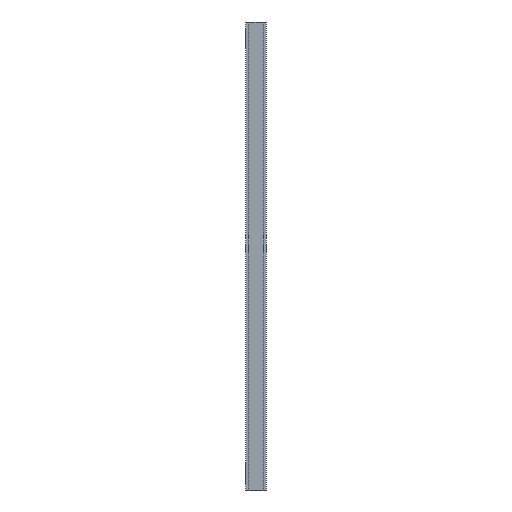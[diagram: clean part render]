
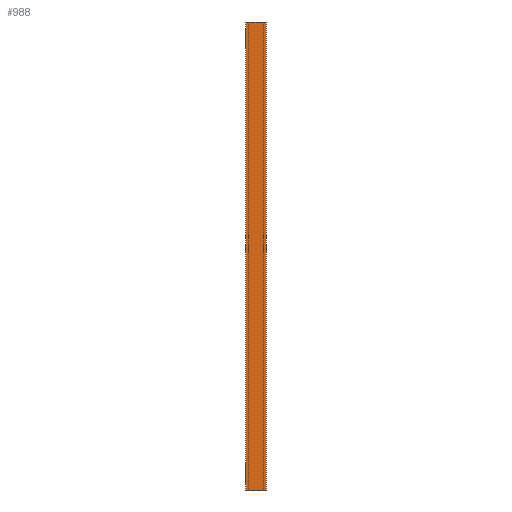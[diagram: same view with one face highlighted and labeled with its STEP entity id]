
A CAD part, left-side view. The second image highlights one B-rep face of the part: STEP entity #988.
In plain terms, the highlighted planar face has unit normal (-1, 0, 0).
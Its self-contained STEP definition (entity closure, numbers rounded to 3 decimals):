
#61 = CARTESIAN_POINT ( 'NONE',  ( -8., 3.2, 0. ) ) ;
#65 = CARTESIAN_POINT ( 'NONE',  ( -8., 12.5, 279. ) ) ;
#72 = VERTEX_POINT ( 'NONE', #1237 ) ;
#112 = CARTESIAN_POINT ( 'NONE',  ( -8., 0., 279. ) ) ;
#144 = DIRECTION ( 'NONE',  ( 0., 0., 1. ) ) ;
#151 = DIRECTION ( 'NONE',  ( 0., 1., 0. ) ) ;
#162 = CARTESIAN_POINT ( 'NONE',  ( -8., 12.5, 279. ) ) ;
#185 = ORIENTED_EDGE ( 'NONE', *, *, #932, .T. ) ;
#200 = ORIENTED_EDGE ( 'NONE', *, *, #1484, .T. ) ;
#240 = ORIENTED_EDGE ( 'NONE', *, *, #1679, .F. ) ;
#242 = AXIS2_PLACEMENT_3D ( 'NONE', #1230, #1371, #144 ) ;
#268 = LINE ( 'NONE', #527, #416 ) ;
#374 = DIRECTION ( 'NONE',  ( 0., 0., -1. ) ) ;
#416 = VECTOR ( 'NONE', #374, 1000. ) ;
#438 = LINE ( 'NONE', #720, #786 ) ;
#488 = EDGE_CURVE ( 'NONE', #1731, #621, #438, .T. ) ;
#497 = ORIENTED_EDGE ( 'NONE', *, *, #488, .F. ) ;
#519 = EDGE_LOOP ( 'NONE', ( #240, #1045, #497, #729, #1738, #200, #185, #925 ) ) ;
#527 = CARTESIAN_POINT ( 'NONE',  ( -8., 12.5, 279. ) ) ;
#557 = DIRECTION ( 'NONE',  ( 0., 1., 0. ) ) ;
#568 = DIRECTION ( 'NONE',  ( 0., -1., 0. ) ) ;
#610 = DIRECTION ( 'NONE',  ( 0., 1., 0. ) ) ;
#621 = VERTEX_POINT ( 'NONE', #1127 ) ;
#629 = VERTEX_POINT ( 'NONE', #61 ) ;
#685 = CARTESIAN_POINT ( 'NONE',  ( -8., 3.2, 279. ) ) ;
#693 = CARTESIAN_POINT ( 'NONE',  ( -8., 0., 279. ) ) ;
#707 = VECTOR ( 'NONE', #610, 1000. ) ;
#713 = EDGE_CURVE ( 'NONE', #999, #1731, #1570, .T. ) ;
#715 = VECTOR ( 'NONE', #1236, 1000. ) ;
#720 = CARTESIAN_POINT ( 'NONE',  ( -8., 0., 279. ) ) ;
#729 = ORIENTED_EDGE ( 'NONE', *, *, #713, .F. ) ;
#756 = VERTEX_POINT ( 'NONE', #880 ) ;
#786 = VECTOR ( 'NONE', #855, 1000. ) ;
#822 = PLANE ( 'NONE',  #242 ) ;
#833 = LINE ( 'NONE', #1660, #1073 ) ;
#836 = LINE ( 'NONE', #693, #715 ) ;
#855 = DIRECTION ( 'NONE',  ( 0., 0., -1. ) ) ;
#867 = DIRECTION ( 'NONE',  ( 0., -1., 0. ) ) ;
#878 = LINE ( 'NONE', #65, #707 ) ;
#880 = CARTESIAN_POINT ( 'NONE',  ( -8., 9.3, 0. ) ) ;
#925 = ORIENTED_EDGE ( 'NONE', *, *, #1302, .F. ) ;
#932 = EDGE_CURVE ( 'NONE', #1368, #1165, #268, .T. ) ;
#938 = VECTOR ( 'NONE', #568, 1000. ) ;
#941 = FACE_OUTER_BOUND ( 'NONE', #519, .T. ) ;
#975 = VECTOR ( 'NONE', #867, 1000. ) ;
#988 = ADVANCED_FACE ( 'NONE', ( #941 ), #822, .T. ) ;
#992 = CARTESIAN_POINT ( 'NONE',  ( -8., 0., 0. ) ) ;
#999 = VERTEX_POINT ( 'NONE', #685 ) ;
#1045 = ORIENTED_EDGE ( 'NONE', *, *, #1320, .T. ) ;
#1073 = VECTOR ( 'NONE', #151, 1000. ) ;
#1127 = CARTESIAN_POINT ( 'NONE',  ( -8., 0., 0. ) ) ;
#1165 = VERTEX_POINT ( 'NONE', #1550 ) ;
#1196 = VECTOR ( 'NONE', #557, 1000. ) ;
#1223 = LINE ( 'NONE', #1511, #938 ) ;
#1230 = CARTESIAN_POINT ( 'NONE',  ( -8., 0., 279. ) ) ;
#1231 = LINE ( 'NONE', #992, #1196 ) ;
#1236 = DIRECTION ( 'NONE',  ( 0., 1., 0. ) ) ;
#1237 = CARTESIAN_POINT ( 'NONE',  ( -8., 9.3, 279. ) ) ;
#1302 = EDGE_CURVE ( 'NONE', #756, #1165, #1231, .T. ) ;
#1320 = EDGE_CURVE ( 'NONE', #629, #621, #1223, .T. ) ;
#1368 = VERTEX_POINT ( 'NONE', #162 ) ;
#1371 = DIRECTION ( 'NONE',  ( -1., 0., 0. ) ) ;
#1484 = EDGE_CURVE ( 'NONE', #72, #1368, #878, .T. ) ;
#1511 = CARTESIAN_POINT ( 'NONE',  ( -8., 0., 0. ) ) ;
#1550 = CARTESIAN_POINT ( 'NONE',  ( -8., 12.5, 0. ) ) ;
#1570 = LINE ( 'NONE', #1684, #975 ) ;
#1609 = EDGE_CURVE ( 'NONE', #999, #72, #836, .T. ) ;
#1660 = CARTESIAN_POINT ( 'NONE',  ( -8., 0., 0. ) ) ;
#1679 = EDGE_CURVE ( 'NONE', #629, #756, #833, .T. ) ;
#1684 = CARTESIAN_POINT ( 'NONE',  ( -8., 0., 279. ) ) ;
#1731 = VERTEX_POINT ( 'NONE', #112 ) ;
#1738 = ORIENTED_EDGE ( 'NONE', *, *, #1609, .T. ) ;
